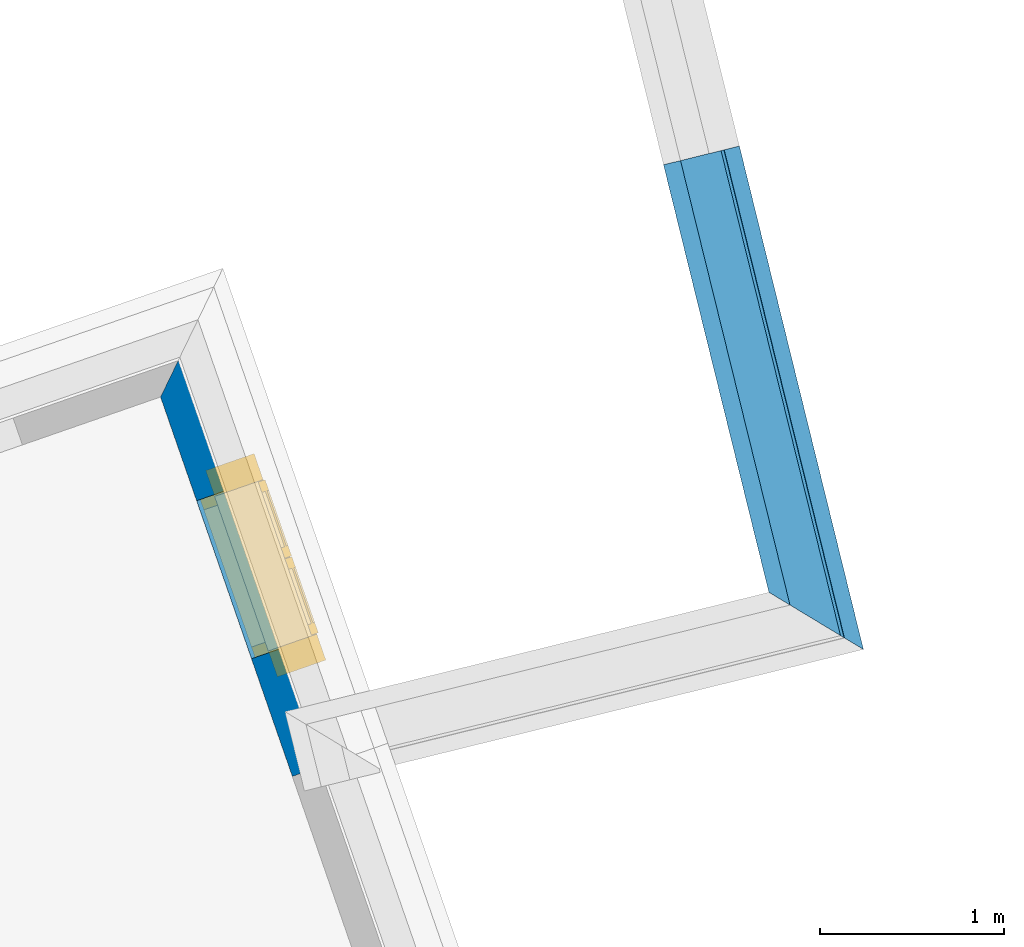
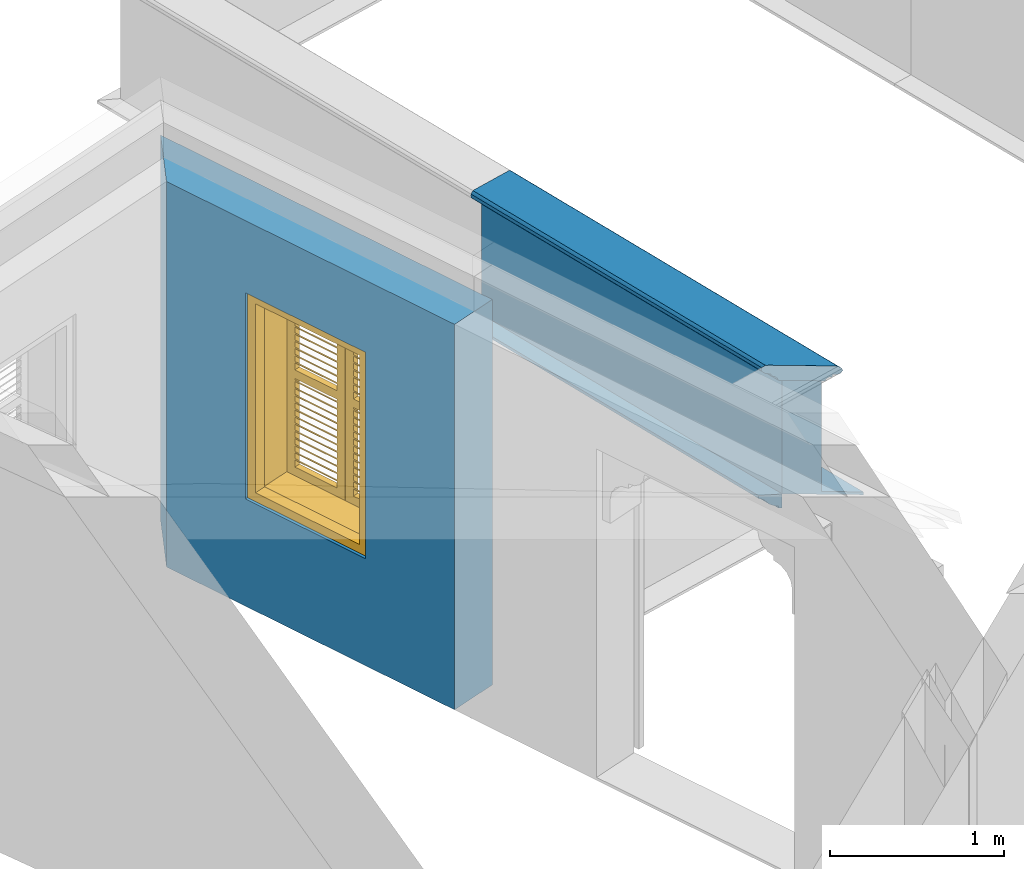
# One storey, part 3 of 5: 4 walls, 1 window, 1 opening.
"""IFC4 building model written with IfcOpenShell, lengths in metres."""

from ifc_helpers import new_model, si_unit, frame, origin, origin_with_axes, place, context, subcontext, project, spatial, polyline, outline, extrude, clip, halfspace, faceted_brep, source, transform, mapped, material, layer, layer_set, layer_usage, material_profile, profile_set, profile_usage, type_object, type_shapes, element, fill, save


model = new_model("IFC4")

# Units and contexts
model_context = context("Model", 3, world=origin_with_axes())
body_context = subcontext(model_context, "Body", "Model", "MODEL_VIEW")
ifc_project = project(units=[si_unit("PLANEANGLEUNIT", "RADIAN"), si_unit("MASSUNIT", "GRAM", prefix="KILO"), si_unit("FORCEUNIT", "NEWTON", prefix="KILO"), si_unit("LENGTHUNIT", "METRE"), si_unit("AREAUNIT", "SQUARE_METRE"), si_unit("VOLUMEUNIT", "CUBIC_METRE")], contexts=[model_context, model_context])

# Site, building, storey
site_placement = place(None, origin_with_axes())
site = spatial("IfcSite", under=ifc_project, at=site_placement, Name="Site plot-1", CompositionType="ELEMENT")
building_placement = place(None, origin_with_axes())
building = spatial("IfcBuilding", under=site, at=building_placement, Name="Building plot-1", CompositionType="ELEMENT")
storey_placement = place(None, frame((0.0, 0.0, 5.4), z_axis=(0.0, 0.0, 1.0), x_axis=(1.0, 0.0, 0.0)))
storey = spatial("IfcBuildingStorey", under=building, at=storey_placement, Name="plot-1 2", CompositionType="ELEMENT", Elevation=5.4)

# Wall, opening, window
ifc_material = material(Name="Masonry")
ifc_layer = layer(ifc_material, 0.33, ventilated=False)
ifc_layer_set = layer_set([ifc_layer], Name="exterior_0.08_0.25")
ifc_layer_usage = layer_usage(ifc_layer_set, "AXIS2", "POSITIVE", -0.25)
wall_type_1 = type_object("IfcWallType", Name="exterior_0.08_0.25", PredefinedType="SOLIDWALL", material=ifc_layer_set)
wall_1_placement = place(storey_placement, frame((0.218994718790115, 17.8494856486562, 0.0), z_axis=(0.0, 0.0, 1.0), x_axis=(-0.328085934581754, 0.944647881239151, 0.0)))
wall_1 = element("IfcWall", 1, at=wall_1_placement, inside=storey, type_object=wall_type_1, material=ifc_layer_usage, Name="exterior", context=body_context, shape_type="SweptSolid", body=[
    extrude(outline(polyline([(-1.9313303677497e-15, 0.0800000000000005), (-6.50825729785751e-16, -0.249999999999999), (2.51575725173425, -0.25), (2.18575725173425, 0.0799999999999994), (-1.9313303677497e-15, 0.0800000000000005)])), origin_with_axes(), (0.0, 0.0, 1.0), 2.7),
])
opening_placement = place(wall_1_placement, frame((0.677878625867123, 0.0, 0.75)))
opening = element("IfcOpeningElement", 2, at=opening_placement, cuts=wall_1, Name="My Opening", ObjectType="Opening", context=body_context, shape_type="SweptSolid", body=[
    extrude(outline(polyline([(0.0, -0.269999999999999), (0.910000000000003, -0.270000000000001), (0.910000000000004, 1.1), (1.11022302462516e-15, 1.1), (0.0, -0.269999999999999)])), origin_with_axes(), (0.0, 0.0, 1.0), 1.445),
])
window_type = type_object("IfcWindowType", Name="shuttered_shorter", PartitioningType="DOUBLE_PANEL_HORIZONTAL", PredefinedType="NOTDEFINED")
shared_shape = source(origin(), body_context, "Body", "Brep", [
    faceted_brep([(0.393, 0.0, 0.622), (0.074, 0.0, 0.622), (0.074, 0.0, 0.632), (0.393, 0.0, 0.632), (0.074, -0.04, 0.592), (0.393, -0.04, 0.592), (0.393, -0.04, 0.582), (0.074, -0.04, 0.582), (0.517, 0.0, 0.682), (0.836, 0.0, 0.682), (0.836, 0.0, 0.672), (0.517, 0.0, 0.672), (0.517, -0.04, 0.642), (0.836, -0.04, 0.642), (0.836, -0.04, 0.632), (0.517, -0.04, 0.632), (0.517, 0.0, 0.632), (0.836, 0.0, 0.632), (0.836, 0.0, 0.622), (0.517, 0.0, 0.622), (0.517, -0.04, 0.592), (0.836, -0.04, 0.592), (0.836, -0.04, 0.582), (0.517, -0.04, 0.582), (0.517, 0.0, 0.232), (0.836, 0.0, 0.232), (0.836, 0.0, 0.222), (0.517, 0.0, 0.222), (0.517, -0.04, 0.192), (0.836, -0.04, 0.192), (0.836, -0.04, 0.182), (0.517, -0.04, 0.182), (0.517, 0.0, 0.532), (0.836, 0.0, 0.532), (0.836, 0.0, 0.522), (0.517, 0.0, 0.522), (0.517, -0.04, 0.492), (0.836, -0.04, 0.492), (0.836, -0.04, 0.482), (0.517, -0.04, 0.482), (0.517, 0.0, 0.482), (0.836, 0.0, 0.482), (0.836, 0.0, 0.472), (0.517, 0.0, 0.472), (0.517, -0.04, 0.442), (0.836, -0.04, 0.442), (0.836, -0.04, 0.432), (0.517, -0.04, 0.432), (0.517, 0.0, 0.582), (0.836, 0.0, 0.582), (0.836, 0.0, 0.572), (0.517, 0.0, 0.572), (0.517, -0.04, 0.542), (0.836, -0.04, 0.542), (0.836, -0.04, 0.532), (0.517, -0.04, 0.532), (0.517, 0.0, 0.182), (0.836, 0.0, 0.182), (0.836, 0.0, 0.172), (0.517, 0.0, 0.172), (0.517, -0.04, 0.142), (0.836, -0.04, 0.142), (0.836, -0.04, 0.132), (0.517, -0.04, 0.132), (0.517, 0.0, 0.382), (0.836, 0.0, 0.382), (0.836, 0.0, 0.372), (0.517, 0.0, 0.372), (0.517, -0.04, 0.342), (0.836, -0.04, 0.342), (0.836, -0.04, 0.332), (0.517, -0.04, 0.332), (0.517, 0.0, 0.432), (0.836, 0.0, 0.432), (0.836, 0.0, 0.422), (0.517, 0.0, 0.422), (0.517, -0.04, 0.392), (0.836, -0.04, 0.392), (0.836, -0.04, 0.382), (0.517, -0.04, 0.382), (0.517, 0.0, 0.132), (0.836, 0.0, 0.132), (0.836, 0.0, 0.122), (0.517, 0.0, 0.122), (0.517, -0.04, 0.092), (0.836, -0.04, 0.092), (0.836, -0.04, 0.082), (0.517, -0.04, 0.082), (0.517, 0.0, 0.282), (0.836, 0.0, 0.282), (0.836, 0.0, 0.272), (0.517, 0.0, 0.272), (0.517, -0.04, 0.242), (0.836, -0.04, 0.242), (0.836, -0.04, 0.232), (0.517, -0.04, 0.232), (0.517, 0.0, 0.332), (0.836, 0.0, 0.332), (0.836, 0.0, 0.322), (0.517, 0.0, 0.322), (0.517, -0.04, 0.292), (0.836, -0.04, 0.292), (0.836, -0.04, 0.282), (0.517, -0.04, 0.282), (0.517, 0.0, 1.362667), (0.836, 0.0, 1.362667), (0.836, 0.0, 1.352667), (0.517, 0.0, 1.352667), (0.517, -0.04, 1.322667), (0.836, -0.04, 1.322667), (0.836, -0.04, 1.312667), (0.517, -0.04, 1.312667), (0.517, 0.0, 1.312667), (0.836, 0.0, 1.312667), (0.836, 0.0, 1.302667), (0.517, 0.0, 1.302667), (0.517, -0.04, 1.272667), (0.836, -0.04, 1.272667), (0.836, -0.04, 1.262667), (0.517, -0.04, 1.262667), (0.517, 0.0, 0.912667), (0.836, 0.0, 0.912667), (0.836, 0.0, 0.902667), (0.517, 0.0, 0.902667), (0.517, -0.04, 0.872667), (0.836, -0.04, 0.872667), (0.836, -0.04, 0.862667), (0.517, -0.04, 0.862667), (0.517, 0.0, 1.212667), (0.836, 0.0, 1.212667), (0.836, 0.0, 1.202667), (0.517, 0.0, 1.202667), (0.517, -0.04, 1.172667), (0.836, -0.04, 1.172667), (0.836, -0.04, 1.162667), (0.517, -0.04, 1.162667), (0.517, 0.0, 1.162667), (0.836, 0.0, 1.162667), (0.836, 0.0, 1.152667), (0.517, 0.0, 1.152667), (0.517, -0.04, 1.122667), (0.836, -0.04, 1.122667), (0.836, -0.04, 1.112667), (0.517, -0.04, 1.112667), (0.517, 0.0, 1.262667), (0.836, 0.0, 1.262667), (0.836, 0.0, 1.252667), (0.517, 0.0, 1.252667), (0.517, -0.04, 1.222667), (0.836, -0.04, 1.222667), (0.836, -0.04, 1.212667), (0.517, -0.04, 1.212667), (0.517, 0.0, 0.862667), (0.836, 0.0, 0.862667), (0.836, 0.0, 0.852667), (0.517, 0.0, 0.852667), (0.517, -0.04, 0.822667), (0.836, -0.04, 0.822667), (0.836, -0.04, 0.812667), (0.517, -0.04, 0.812667), (0.517, 0.0, 1.062667), (0.836, 0.0, 1.062667), (0.836, 0.0, 1.052667), (0.517, 0.0, 1.052667), (0.517, -0.04, 1.022667), (0.836, -0.04, 1.022667), (0.836, -0.04, 1.012667), (0.517, -0.04, 1.012667), (0.517, 0.0, 1.112667), (0.836, 0.0, 1.112667), (0.836, 0.0, 1.102667), (0.517, 0.0, 1.102667), (0.517, -0.04, 1.072667), (0.836, -0.04, 1.072667), (0.836, -0.04, 1.062667), (0.517, -0.04, 1.062667), (0.517, 0.0, 0.812667), (0.836, 0.0, 0.812667), (0.836, 0.0, 0.802667), (0.517, 0.0, 0.802667), (0.517, -0.04, 0.772667), (0.836, -0.04, 0.772667), (0.836, -0.04, 0.762667), (0.517, -0.04, 0.762667), (0.517, 0.0, 0.962667), (0.836, 0.0, 0.962667), (0.836, 0.0, 0.952667), (0.517, 0.0, 0.952667), (0.517, -0.04, 0.922667), (0.836, -0.04, 0.922667), (0.836, -0.04, 0.912667), (0.517, -0.04, 0.912667), (0.517, 0.0, 1.012667), (0.836, 0.0, 1.012667), (0.836, 0.0, 1.002667), (0.517, 0.0, 1.002667), (0.517, -0.04, 0.972667), (0.836, -0.04, 0.972667), (0.836, -0.04, 0.962667), (0.517, -0.04, 0.962667), (0.074, 0.0, 0.682), (0.393, 0.0, 0.682), (0.393, 0.0, 0.672), (0.074, 0.0, 0.672), (0.074, -0.04, 0.642), (0.393, -0.04, 0.642), (0.393, -0.04, 0.632), (0.074, -0.04, 0.632), (0.074, 0.0, 0.232), (0.393, 0.0, 0.232), (0.393, 0.0, 0.222), (0.074, 0.0, 0.222), (0.074, -0.04, 0.192), (0.393, -0.04, 0.192), (0.393, -0.04, 0.182), (0.074, -0.04, 0.182), (0.074, 0.0, 0.532), (0.393, 0.0, 0.532), (0.393, 0.0, 0.522), (0.074, 0.0, 0.522), (0.074, -0.04, 0.492), (0.393, -0.04, 0.492), (0.393, -0.04, 0.482), (0.074, -0.04, 0.482), (0.074, 0.0, 0.482), (0.393, 0.0, 0.482), (0.393, 0.0, 0.472), (0.074, 0.0, 0.472), (0.074, -0.04, 0.442), (0.393, -0.04, 0.442), (0.393, -0.04, 0.432), (0.074, -0.04, 0.432), (0.074, 0.0, 0.582), (0.393, 0.0, 0.582), (0.393, 0.0, 0.572), (0.074, 0.0, 0.572), (0.074, -0.04, 0.542), (0.393, -0.04, 0.542), (0.393, -0.04, 0.532), (0.074, -0.04, 0.532), (0.074, 0.0, 0.182), (0.393, 0.0, 0.182), (0.393, 0.0, 0.172), (0.074, 0.0, 0.172), (0.074, -0.04, 0.142), (0.393, -0.04, 0.142), (0.393, -0.04, 0.132), (0.074, -0.04, 0.132), (0.074, 0.0, 0.382), (0.393, 0.0, 0.382), (0.393, 0.0, 0.372), (0.074, 0.0, 0.372), (0.074, -0.04, 0.342), (0.393, -0.04, 0.342), (0.393, -0.04, 0.332), (0.074, -0.04, 0.332), (0.074, 0.0, 0.432), (0.393, 0.0, 0.432), (0.393, 0.0, 0.422), (0.074, 0.0, 0.422), (0.074, -0.04, 0.392), (0.393, -0.04, 0.392), (0.393, -0.04, 0.382), (0.074, -0.04, 0.382), (0.074, 0.0, 0.132), (0.393, 0.0, 0.132), (0.393, 0.0, 0.122), (0.074, 0.0, 0.122), (0.074, -0.04, 0.092), (0.393, -0.04, 0.092), (0.393, -0.04, 0.082), (0.074, -0.04, 0.082), (0.074, 0.0, 0.282), (0.393, 0.0, 0.282), (0.393, 0.0, 0.272), (0.074, 0.0, 0.272), (0.074, -0.04, 0.242), (0.393, -0.04, 0.242), (0.393, -0.04, 0.232), (0.074, -0.04, 0.232), (0.074, 0.0, 0.332), (0.393, 0.0, 0.332), (0.393, 0.0, 0.322), (0.074, 0.0, 0.322), (0.074, -0.04, 0.292), (0.393, -0.04, 0.292), (0.393, -0.04, 0.282), (0.074, -0.04, 0.282), (0.074, 0.0, 1.362667), (0.393, 0.0, 1.362667), (0.393, 0.0, 1.352667), (0.074, 0.0, 1.352667), (0.074, -0.04, 1.322667), (0.393, -0.04, 1.322667), (0.393, -0.04, 1.312667), (0.074, -0.04, 1.312667), (0.074, 0.0, 1.312667), (0.393, 0.0, 1.312667), (0.393, 0.0, 1.302667), (0.074, 0.0, 1.302667), (0.074, -0.04, 1.272667), (0.393, -0.04, 1.272667), (0.393, -0.04, 1.262667), (0.074, -0.04, 1.262667), (0.074, 0.0, 0.912667), (0.393, 0.0, 0.912667), (0.393, 0.0, 0.902667), (0.074, 0.0, 0.902667), (0.074, -0.04, 0.872667), (0.393, -0.04, 0.872667), (0.393, -0.04, 0.862667), (0.074, -0.04, 0.862667), (0.074, 0.0, 1.212667), (0.393, 0.0, 1.212667), (0.393, 0.0, 1.202667), (0.074, 0.0, 1.202667), (0.074, -0.04, 1.172667), (0.393, -0.04, 1.172667), (0.393, -0.04, 1.162667), (0.074, -0.04, 1.162667), (0.074, 0.0, 1.162667), (0.393, 0.0, 1.162667), (0.393, 0.0, 1.152667), (0.074, 0.0, 1.152667), (0.074, -0.04, 1.122667), (0.393, -0.04, 1.122667), (0.393, -0.04, 1.112667), (0.074, -0.04, 1.112667), (0.074, 0.0, 1.262667), (0.393, 0.0, 1.262667), (0.393, 0.0, 1.252667), (0.074, 0.0, 1.252667), (0.074, -0.04, 1.222667), (0.393, -0.04, 1.222667), (0.393, -0.04, 1.212667), (0.074, -0.04, 1.212667), (0.074, 0.0, 0.862667), (0.393, 0.0, 0.862667), (0.393, 0.0, 0.852667), (0.074, 0.0, 0.852667), (0.074, -0.04, 0.822667), (0.393, -0.04, 0.822667), (0.393, -0.04, 0.812667), (0.074, -0.04, 0.812667), (0.074, 0.0, 1.062667), (0.393, 0.0, 1.062667), (0.393, 0.0, 1.052667), (0.074, 0.0, 1.052667), (0.074, -0.04, 1.022667), (0.393, -0.04, 1.022667), (0.393, -0.04, 1.012667), (0.074, -0.04, 1.012667), (0.074, 0.0, 1.112667), (0.393, 0.0, 1.112667), (0.393, 0.0, 1.102667), (0.074, 0.0, 1.102667), (0.074, -0.04, 1.072667), (0.393, -0.04, 1.072667), (0.393, -0.04, 1.062667), (0.074, -0.04, 1.062667), (0.074, 0.0, 0.812667), (0.393, 0.0, 0.812667), (0.393, 0.0, 0.802667), (0.074, 0.0, 0.802667), (0.074, -0.04, 0.772667), (0.393, -0.04, 0.772667), (0.393, -0.04, 0.762667), (0.074, -0.04, 0.762667), (0.074, 0.0, 0.962667), (0.393, 0.0, 0.962667), (0.393, 0.0, 0.952667), (0.074, 0.0, 0.952667), (0.074, -0.04, 0.922667), (0.393, -0.04, 0.922667), (0.393, -0.04, 0.912667), (0.074, -0.04, 0.912667), (0.074, 0.0, 1.012667), (0.393, 0.0, 1.012667), (0.393, 0.0, 1.002667), (0.074, 0.0, 1.002667), (0.074, -0.04, 0.972667), (0.393, -0.04, 0.972667), (0.393, -0.04, 0.962667), (0.074, -0.04, 0.962667), (0.517, -0.04, 0.072), (0.457, -0.04, 0.012), (0.896, -0.04, 0.012), (0.836, -0.04, 0.072), (0.457, -0.04, 0.692667), (0.517, -0.04, 0.692667), (0.457, 0.0, 0.012), (0.896, 0.0, 0.012), (0.836, -0.04, 0.692667), (0.896, -0.04, 0.692667), (0.836, 0.0, 0.072), (0.517, 0.0, 0.072), (0.457, 0.0, 0.692667), (0.517, 0.0, 0.692667), (0.517, -0.04, 0.752666), (0.457, -0.04, 0.752666), (0.896, 0.0, 0.692667), (0.836, 0.0, 0.692667), (0.836, -0.04, 0.752666), (0.896, -0.04, 0.752666), (0.457, 0.0, 0.752666), (0.457, -0.04, 1.433333), (0.517, -0.04, 1.373333), (0.896, 0.0, 0.752666), (0.836, -0.04, 1.373333), (0.896, -0.04, 1.433333), (0.457, 0.0, 1.433333), (0.517, 0.0, 0.752666), (0.836, 0.0, 0.752666), (0.517, 0.0, 1.373333), (0.896, 0.0, 1.433333), (0.836, 0.0, 1.373333), (0.074, -0.04, 0.072), (0.014, -0.04, 0.012), (0.453, -0.04, 0.012), (0.393, -0.04, 0.072), (0.014, -0.04, 0.692667), (0.074, -0.04, 0.692667), (0.014, 0.0, 0.012), (0.453, 0.0, 0.012), (0.393, -0.04, 0.692667), (0.453, -0.04, 0.692667), (0.393, 0.0, 0.072), (0.074, 0.0, 0.072), (0.014, 0.0, 0.692667), (0.074, 0.0, 0.692667), (0.074, -0.04, 0.752666), (0.014, -0.04, 0.752666), (0.453, 0.0, 0.692667), (0.393, 0.0, 0.692667), (0.393, -0.04, 0.752666), (0.453, -0.04, 0.752666), (0.014, 0.0, 0.752666), (0.014, -0.04, 1.433333), (0.074, -0.04, 1.373333), (0.453, 0.0, 0.752666), (0.393, -0.04, 1.373333), (0.453, -0.04, 1.433333), (0.014, 0.0, 1.433333), (0.074, 0.0, 0.752666), (0.393, 0.0, 0.752666), (0.074, 0.0, 1.373333), (0.453, 0.0, 1.433333), (0.393, 0.0, 1.373333), (0.0, 0.33, 1.445), (0.91, 0.33, 1.445), (0.85, 0.33, 1.385), (0.06, 0.33, 1.385), (0.91, 0.25, 1.445), (0.0, 0.25, 1.445), (0.91, 0.25, 1.445), (0.85, 0.33, 0.06), (0.91, 0.33, 0.0), (0.85, 0.25, 1.385), (0.06, 0.25, 1.385), (0.0, 0.33, 0.0), (0.06, 0.33, 0.06), (0.0, 0.25, 0.0), (0.91, 0.25, 0.0), (0.85, 0.25, 0.06), (0.06, 0.25, 0.06), (1.05, 0.25, 1.585), (-0.14, 0.25, 1.585), (-0.14, -0.03, 1.585), (1.05, -0.03, 1.585), (0.9, -0.03, 1.435), (0.01, -0.03, 1.435), (0.01, 0.25, 1.435), (0.9, 0.25, 1.435), (0.9, 0.25, 0.01), (0.9, -0.03, 0.01), (1.05, -0.03, -0.14), (1.05, 0.25, -0.14), (0.01, -0.03, 0.01), (0.01, 0.25, 0.01), (-0.14, -0.03, -0.14), (-0.14, 0.25, -0.14)], [[[0, 1, 2, 3]], [[4, 5, 3, 2]], [[5, 6, 0, 3]], [[1, 0, 6, 7]], [[2, 1, 7, 4]], [[5, 4, 7, 6]], [[8, 9, 10, 11]], [[12, 13, 9, 8]], [[13, 14, 10, 9]], [[14, 15, 11, 10]], [[15, 12, 8, 11]], [[13, 12, 15, 14]], [[16, 17, 18, 19]], [[20, 21, 17, 16]], [[21, 22, 18, 17]], [[22, 23, 19, 18]], [[23, 20, 16, 19]], [[21, 20, 23, 22]], [[24, 25, 26, 27]], [[28, 29, 25, 24]], [[29, 30, 26, 25]], [[30, 31, 27, 26]], [[31, 28, 24, 27]], [[29, 28, 31, 30]], [[32, 33, 34, 35]], [[36, 37, 33, 32]], [[37, 38, 34, 33]], [[38, 39, 35, 34]], [[39, 36, 32, 35]], [[37, 36, 39, 38]], [[40, 41, 42, 43]], [[44, 45, 41, 40]], [[45, 46, 42, 41]], [[46, 47, 43, 42]], [[47, 44, 40, 43]], [[45, 44, 47, 46]], [[48, 49, 50, 51]], [[52, 53, 49, 48]], [[53, 54, 50, 49]], [[54, 55, 51, 50]], [[55, 52, 48, 51]], [[53, 52, 55, 54]], [[56, 57, 58, 59]], [[60, 61, 57, 56]], [[61, 62, 58, 57]], [[62, 63, 59, 58]], [[63, 60, 56, 59]], [[61, 60, 63, 62]], [[64, 65, 66, 67]], [[68, 69, 65, 64]], [[69, 70, 66, 65]], [[70, 71, 67, 66]], [[71, 68, 64, 67]], [[69, 68, 71, 70]], [[72, 73, 74, 75]], [[76, 77, 73, 72]], [[77, 78, 74, 73]], [[78, 79, 75, 74]], [[79, 76, 72, 75]], [[77, 76, 79, 78]], [[80, 81, 82, 83]], [[84, 85, 81, 80]], [[85, 86, 82, 81]], [[86, 87, 83, 82]], [[87, 84, 80, 83]], [[85, 84, 87, 86]], [[88, 89, 90, 91]], [[92, 93, 89, 88]], [[93, 94, 90, 89]], [[94, 95, 91, 90]], [[95, 92, 88, 91]], [[93, 92, 95, 94]], [[96, 97, 98, 99]], [[100, 101, 97, 96]], [[101, 102, 98, 97]], [[102, 103, 99, 98]], [[103, 100, 96, 99]], [[101, 100, 103, 102]], [[104, 105, 106, 107]], [[108, 109, 105, 104]], [[109, 110, 106, 105]], [[110, 111, 107, 106]], [[111, 108, 104, 107]], [[109, 108, 111, 110]], [[112, 113, 114, 115]], [[116, 117, 113, 112]], [[117, 118, 114, 113]], [[118, 119, 115, 114]], [[119, 116, 112, 115]], [[117, 116, 119, 118]], [[120, 121, 122, 123]], [[124, 125, 121, 120]], [[125, 126, 122, 121]], [[126, 127, 123, 122]], [[127, 124, 120, 123]], [[125, 124, 127, 126]], [[128, 129, 130, 131]], [[132, 133, 129, 128]], [[133, 134, 130, 129]], [[134, 135, 131, 130]], [[135, 132, 128, 131]], [[133, 132, 135, 134]], [[136, 137, 138, 139]], [[140, 141, 137, 136]], [[141, 142, 138, 137]], [[142, 143, 139, 138]], [[139, 143, 140, 136]], [[141, 140, 143, 142]], [[144, 145, 146, 147]], [[148, 149, 145, 144]], [[149, 150, 146, 145]], [[150, 151, 147, 146]], [[151, 148, 144, 147]], [[149, 148, 151, 150]], [[152, 153, 154, 155]], [[156, 157, 153, 152]], [[157, 158, 154, 153]], [[158, 159, 155, 154]], [[159, 156, 152, 155]], [[157, 156, 159, 158]], [[160, 161, 162, 163]], [[164, 165, 161, 160]], [[165, 166, 162, 161]], [[166, 167, 163, 162]], [[167, 164, 160, 163]], [[165, 164, 167, 166]], [[168, 169, 170, 171]], [[172, 173, 169, 168]], [[173, 174, 170, 169]], [[174, 175, 171, 170]], [[175, 172, 168, 171]], [[173, 172, 175, 174]], [[176, 177, 178, 179]], [[180, 181, 177, 176]], [[181, 182, 178, 177]], [[182, 183, 179, 178]], [[183, 180, 176, 179]], [[181, 180, 183, 182]], [[184, 185, 186, 187]], [[188, 189, 185, 184]], [[189, 190, 186, 185]], [[190, 191, 187, 186]], [[191, 188, 184, 187]], [[189, 188, 191, 190]], [[192, 193, 194, 195]], [[196, 197, 193, 192]], [[197, 198, 194, 193]], [[198, 199, 195, 194]], [[199, 196, 192, 195]], [[197, 196, 199, 198]], [[200, 201, 202, 203]], [[204, 205, 201, 200]], [[205, 206, 202, 201]], [[206, 207, 203, 202]], [[207, 204, 200, 203]], [[205, 204, 207, 206]], [[208, 209, 210, 211]], [[212, 213, 209, 208]], [[213, 214, 210, 209]], [[214, 215, 211, 210]], [[215, 212, 208, 211]], [[213, 212, 215, 214]], [[216, 217, 218, 219]], [[220, 221, 217, 216]], [[221, 222, 218, 217]], [[222, 223, 219, 218]], [[223, 220, 216, 219]], [[221, 220, 223, 222]], [[224, 225, 226, 227]], [[228, 229, 225, 224]], [[229, 230, 226, 225]], [[230, 231, 227, 226]], [[231, 228, 224, 227]], [[229, 228, 231, 230]], [[232, 233, 234, 235]], [[236, 237, 233, 232]], [[237, 238, 234, 233]], [[238, 239, 235, 234]], [[239, 236, 232, 235]], [[237, 236, 239, 238]], [[240, 241, 242, 243]], [[244, 245, 241, 240]], [[245, 246, 242, 241]], [[246, 247, 243, 242]], [[247, 244, 240, 243]], [[245, 244, 247, 246]], [[248, 249, 250, 251]], [[252, 253, 249, 248]], [[253, 254, 250, 249]], [[254, 255, 251, 250]], [[255, 252, 248, 251]], [[253, 252, 255, 254]], [[256, 257, 258, 259]], [[260, 261, 257, 256]], [[261, 262, 258, 257]], [[262, 263, 259, 258]], [[263, 260, 256, 259]], [[261, 260, 263, 262]], [[264, 265, 266, 267]], [[268, 269, 265, 264]], [[269, 270, 266, 265]], [[270, 271, 267, 266]], [[271, 268, 264, 267]], [[269, 268, 271, 270]], [[272, 273, 274, 275]], [[276, 277, 273, 272]], [[277, 278, 274, 273]], [[278, 279, 275, 274]], [[279, 276, 272, 275]], [[277, 276, 279, 278]], [[280, 281, 282, 283]], [[284, 285, 281, 280]], [[285, 286, 282, 281]], [[286, 287, 283, 282]], [[287, 284, 280, 283]], [[285, 284, 287, 286]], [[288, 289, 290, 291]], [[292, 293, 289, 288]], [[293, 294, 290, 289]], [[294, 295, 291, 290]], [[295, 292, 288, 291]], [[293, 292, 295, 294]], [[296, 297, 298, 299]], [[300, 301, 297, 296]], [[301, 302, 298, 297]], [[302, 303, 299, 298]], [[303, 300, 296, 299]], [[301, 300, 303, 302]], [[304, 305, 306, 307]], [[308, 309, 305, 304]], [[309, 310, 306, 305]], [[310, 311, 307, 306]], [[311, 308, 304, 307]], [[309, 308, 311, 310]], [[312, 313, 314, 315]], [[316, 317, 313, 312]], [[317, 318, 314, 313]], [[318, 319, 315, 314]], [[319, 316, 312, 315]], [[317, 316, 319, 318]], [[320, 321, 322, 323]], [[324, 325, 321, 320]], [[325, 326, 322, 321]], [[326, 327, 323, 322]], [[327, 324, 320, 323]], [[325, 324, 327, 326]], [[328, 329, 330, 331]], [[332, 333, 329, 328]], [[333, 334, 330, 329]], [[334, 335, 331, 330]], [[335, 332, 328, 331]], [[333, 332, 335, 334]], [[336, 337, 338, 339]], [[340, 341, 337, 336]], [[341, 342, 338, 337]], [[342, 343, 339, 338]], [[343, 340, 336, 339]], [[341, 340, 343, 342]], [[344, 345, 346, 347]], [[348, 349, 345, 344]], [[349, 350, 346, 345]], [[350, 351, 347, 346]], [[351, 348, 344, 347]], [[349, 348, 351, 350]], [[352, 353, 354, 355]], [[356, 357, 353, 352]], [[357, 358, 354, 353]], [[358, 359, 355, 354]], [[359, 356, 352, 355]], [[357, 356, 359, 358]], [[360, 361, 362, 363]], [[364, 365, 361, 360]], [[365, 366, 362, 361]], [[366, 367, 363, 362]], [[367, 364, 360, 363]], [[365, 364, 367, 366]], [[368, 369, 370, 371]], [[372, 373, 369, 368]], [[373, 374, 370, 369]], [[374, 375, 371, 370]], [[375, 372, 368, 371]], [[373, 372, 375, 374]], [[376, 377, 378, 379]], [[380, 381, 377, 376]], [[381, 382, 378, 377]], [[382, 383, 379, 378]], [[383, 380, 376, 379]], [[381, 380, 383, 382]], [[384, 385, 386, 387]], [[388, 385, 384, 389]], [[390, 391, 386, 385]], [[392, 387, 386, 393]], [[384, 387, 394, 395]], [[390, 385, 388, 396]], [[389, 384, 395, 397]], [[389, 398, 399, 388]], [[390, 395, 394, 391]], [[400, 393, 386, 391]], [[387, 392, 401, 394]], [[402, 392, 393, 403]], [[396, 388, 399, 404]], [[390, 396, 397, 395]], [[392, 389, 397, 401]], [[398, 389, 392, 402]], [[405, 399, 398, 406]], [[394, 401, 400, 391]], [[407, 403, 393, 400]], [[408, 402, 403, 409]], [[404, 399, 405, 410]], [[411, 397, 396, 404]], [[397, 411, 412, 401]], [[398, 402, 412, 411]], [[406, 398, 411, 413]], [[405, 406, 408, 409]], [[401, 412, 407, 400]], [[414, 409, 403, 407]], [[402, 408, 415, 412]], [[405, 409, 414, 410]], [[404, 410, 413, 411]], [[408, 406, 413, 415]], [[412, 415, 414, 407]], [[413, 410, 414, 415]], [[416, 417, 418, 419]], [[420, 417, 416, 421]], [[422, 423, 418, 417]], [[424, 419, 418, 425]], [[416, 419, 426, 427]], [[422, 417, 420, 428]], [[421, 416, 427, 429]], [[421, 430, 431, 420]], [[422, 427, 426, 423]], [[432, 425, 418, 423]], [[419, 424, 433, 426]], [[434, 424, 425, 435]], [[428, 420, 431, 436]], [[422, 428, 429, 427]], [[424, 421, 429, 433]], [[430, 421, 424, 434]], [[437, 431, 430, 438]], [[426, 433, 432, 423]], [[439, 435, 425, 432]], [[440, 434, 435, 441]], [[436, 431, 437, 442]], [[443, 429, 428, 436]], [[429, 443, 444, 433]], [[430, 434, 444, 443]], [[438, 430, 443, 445]], [[437, 438, 440, 441]], [[433, 444, 439, 432]], [[446, 441, 435, 439]], [[434, 440, 447, 444]], [[437, 441, 446, 442]], [[436, 442, 445, 443]], [[440, 438, 445, 447]], [[444, 447, 446, 439]], [[445, 442, 446, 447]], [[448, 449, 450, 451]], [[452, 449, 448]], [[448, 453, 454]], [[448, 454, 452]], [[455, 450, 449, 456]], [[451, 450, 457, 458]], [[459, 448, 451, 460]], [[448, 459, 461, 453]], [[454, 453, 458, 457]], [[462, 452, 454]], [[454, 457, 463]], [[454, 463, 462]], [[456, 449, 452, 462]], [[450, 455, 463, 457]], [[456, 459, 460, 455]], [[460, 451, 458, 464]], [[459, 456, 462, 461]], [[464, 458, 453, 461]], [[461, 462, 463, 464]], [[455, 460, 464, 463]], [[465, 466, 467, 468]], [[469, 470, 471, 472]], [[473, 474, 469, 472]], [[465, 468, 475, 476]], [[470, 477, 478, 471]], [[474, 473, 478, 477]], [[474, 477, 479, 475]], [[470, 467, 479, 477]], [[470, 469, 468, 467]], [[474, 475, 468, 469]], [[471, 478, 480, 466]], [[473, 472, 465, 476]], [[473, 476, 480, 478]], [[466, 465, 472, 471]], [[480, 476, 475, 479]], [[480, 479, 467, 466]]]),
])
type_shapes(window_type, [shared_shape])
window_placement = place(storey_placement, frame((0.251647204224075, 18.578425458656, 0.75), z_axis=(0.0, 0.0, 1.0), x_axis=(-0.298558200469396, 0.859629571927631, 0.0)))
window = element("IfcWindow", 3, at=window_placement, inside=storey, type_object=window_type, Name="circulation outside window", OverallHeight=1.445, OverallWidth=0.91, context=body_context, shape_type="MappedRepresentation", body=[
    mapped(shared_shape, transform((0.0, 0.0, 0.0), scale=1.0)),
])
fill(opening, window)

# Walls
ifc_material_profile_1 = material_profile(None, outline(polyline([(0.25, 0.0), (0.25, 0.795), (0.09, 0.795), (0.09, 0.02), (-0.08, 0.02), (-0.08, 0.0), (0.25, 0.0)])))
ifc_profile_set_1 = profile_set([ifc_material_profile_1])
ifc_profile_usage_1 = profile_usage(ifc_profile_set_1)
wall_type_2 = type_object("IfcWallType", Name="parapet internal_0", PredefinedType="PARAPET", material=ifc_profile_set_1)
wall_2_placement = place(storey_placement, frame((3.39299231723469, 17.6016174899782, 0.0), z_axis=(-0.239234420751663, 0.970961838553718, 0.0), x_axis=(-0.970961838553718, -0.239234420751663, 0.0)))
element("IfcWall", 4, at=wall_2_placement, inside=storey, type_object=wall_type_2, material=ifc_profile_usage_1, Name="parapet internal_0", context=body_context, shape_type="Clipping", body=[
    clip(clip(extrude(outline(polyline([(0.25, 0.0), (0.25, 0.795), (0.09, 0.795), (0.09, 0.02), (-0.08, 0.02), (-0.08, 0.0), (0.25, 0.0)])), origin_with_axes(), (0.0, 0.0, 1.0), 4.74089482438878), halfspace(frame((0.0, 0.0, 3.74089482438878), z_axis=(1.71512449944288e-15, 0.0, -1.0), x_axis=(0.0, 1.0, 0.0)), True)), halfspace(frame((0.0, 0.0, 1.0), z_axis=(0.707106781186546, 0.0, -0.707106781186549), x_axis=(0.0, 1.0, 0.0)), False)),
])
ifc_material_profile_2 = material_profile(None, outline(polyline([(0.265, 0.795), (0.268, 0.807), (0.274, 0.816), (0.283, 0.822), (0.295, 0.825), (0.295, 0.84), (0.305, 0.84), (0.317, 0.842), (0.326, 0.849), (0.333, 0.858), (0.335, 0.87), (0.333, 0.882), (0.326, 0.891), (0.317, 0.898), (0.305, 0.9), (0.035, 0.9), (0.023, 0.898), (0.014, 0.891), (0.007, 0.882), (0.005, 0.87), (0.007, 0.858), (0.014, 0.849), (0.023, 0.842), (0.035, 0.84), (0.045, 0.84), (0.045, 0.825), (0.057, 0.822), (0.066, 0.816), (0.072, 0.807), (0.075, 0.795), (0.265, 0.795)])))
ifc_profile_set_2 = profile_set([ifc_material_profile_2])
ifc_profile_usage_2 = profile_usage(ifc_profile_set_2)
wall_type_3 = type_object("IfcWallType", Name="parapet internal_1", PredefinedType="PARAPET", material=ifc_profile_set_2)
wall_3_placement = place(storey_placement, frame((3.39299231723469, 17.6016174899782, 0.0), z_axis=(-0.239234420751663, 0.970961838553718, 0.0), x_axis=(-0.970961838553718, -0.239234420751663, 0.0)))
element("IfcWall", 5, at=wall_3_placement, inside=storey, type_object=wall_type_3, material=ifc_profile_usage_2, Name="parapet internal_1", context=body_context, shape_type="Clipping", body=[
    clip(clip(extrude(outline(polyline([(0.265, 0.795), (0.268, 0.807), (0.274, 0.816), (0.283, 0.822), (0.295, 0.825), (0.295, 0.84), (0.305, 0.84), (0.317, 0.842), (0.326, 0.849), (0.333, 0.858), (0.335, 0.87), (0.333, 0.882), (0.326, 0.891), (0.317, 0.898), (0.305, 0.9), (0.035, 0.9), (0.023, 0.898), (0.014, 0.891), (0.007, 0.882), (0.005, 0.87), (0.007, 0.858), (0.014, 0.849), (0.023, 0.842), (0.035, 0.84), (0.045, 0.84), (0.045, 0.825), (0.057, 0.822), (0.066, 0.816), (0.072, 0.807), (0.075, 0.795), (0.265, 0.795)])), origin_with_axes(), (0.0, 0.0, 1.0), 4.74089482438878), halfspace(frame((0.0, 0.0, 3.74089482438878), z_axis=(1.71512449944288e-15, 0.0, -1.0), x_axis=(0.0, 1.0, 0.0)), True)), halfspace(frame((0.0, 0.0, 1.0), z_axis=(0.707106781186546, 0.0, -0.707106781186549), x_axis=(0.0, 1.0, 0.0)), False)),
])
ifc_material_profile_3 = material_profile(None, outline(polyline([(0.25, -0.1), (0.265, -0.1), (0.265, -0.085), (0.278, -0.084), (0.289, -0.081), (0.301, -0.074), (0.309, -0.065), (0.315, -0.055), (0.324, -0.044), (0.334, -0.038), (0.345, -0.035), (0.345, -0.015), (0.25, 0.0), (0.25, -0.1)])))
ifc_profile_set_3 = profile_set([ifc_material_profile_3])
ifc_profile_usage_3 = profile_usage(ifc_profile_set_3)
wall_type_4 = type_object("IfcWallType", Name="parapet internal_2", PredefinedType="PARAPET", material=ifc_profile_set_3)
wall_4_placement = place(storey_placement, frame((3.39299231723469, 17.6016174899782, 0.0), z_axis=(-0.239234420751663, 0.970961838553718, 0.0), x_axis=(-0.970961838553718, -0.239234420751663, 0.0)))
element("IfcWall", 6, at=wall_4_placement, inside=storey, type_object=wall_type_4, material=ifc_profile_usage_3, Name="parapet internal_2", context=body_context, shape_type="Clipping", body=[
    clip(clip(extrude(outline(polyline([(0.25, -0.1), (0.265, -0.1), (0.265, -0.085), (0.278, -0.084), (0.289, -0.081), (0.301, -0.074), (0.309, -0.065), (0.315, -0.055), (0.324, -0.044), (0.334, -0.038), (0.345, -0.035), (0.345, -0.015), (0.25, 0.0), (0.25, -0.1)])), origin_with_axes(), (0.0, 0.0, 1.0), 4.74089482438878), halfspace(frame((0.0, 0.0, 3.74089482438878), z_axis=(1.71512449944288e-15, 0.0, -1.0), x_axis=(0.0, 1.0, 0.0)), True)), halfspace(frame((0.0, 0.0, 1.0), z_axis=(0.707106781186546, 0.0, -0.707106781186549), x_axis=(0.0, 1.0, 0.0)), False)),
])

save(model, "model.ifc")
